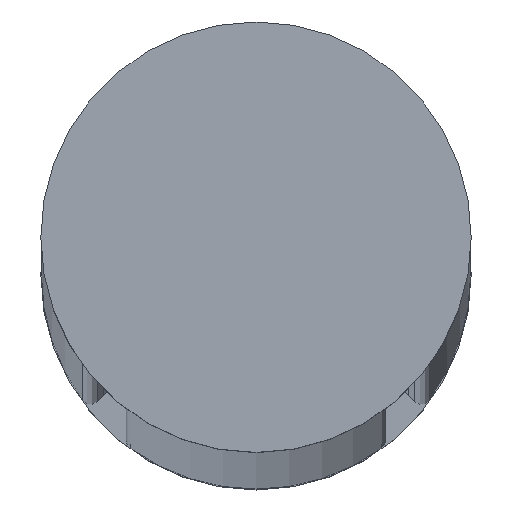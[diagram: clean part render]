
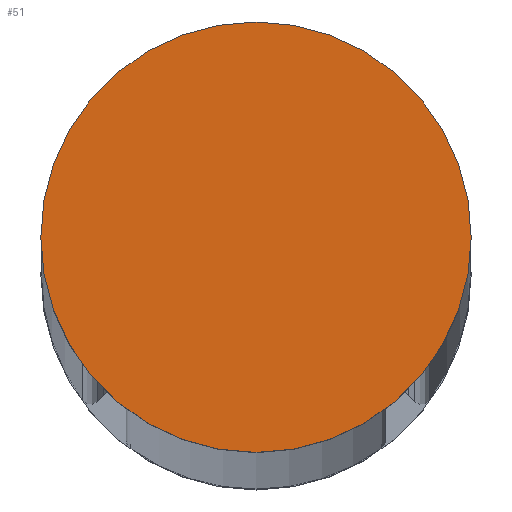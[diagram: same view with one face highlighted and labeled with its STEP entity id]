
A CAD part, top view. The second image highlights one B-rep face of the part: STEP entity #51.
In plain terms, the highlighted planar face has unit normal (0, 0, 1).
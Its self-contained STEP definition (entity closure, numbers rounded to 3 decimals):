
#51 = ADVANCED_FACE ( 'NONE', ( #3584 ), #1428, .T. ) ;
#523 = AXIS2_PLACEMENT_3D ( 'NONE', #3316, #2137, #2698 ) ;
#880 = DIRECTION ( 'NONE',  ( 1., 0., 0. ) ) ;
#887 = EDGE_CURVE ( 'NONE', #2764, #1528, #2384, .T. ) ;
#905 = EDGE_LOOP ( 'NONE', ( #2727, #3400 ) ) ;
#1393 = CARTESIAN_POINT ( 'NONE',  ( -10., 0., 995. ) ) ;
#1428 = PLANE ( 'NONE',  #2730 ) ;
#1528 = VERTEX_POINT ( 'NONE', #1393 ) ;
#1607 = DIRECTION ( 'NONE',  ( 0., 0., 1. ) ) ;
#1642 = CIRCLE ( 'NONE', #523, 10. ) ;
#1728 = EDGE_CURVE ( 'NONE', #1528, #2764, #1642, .T. ) ;
#1850 = AXIS2_PLACEMENT_3D ( 'NONE', #3403, #1607, #2490 ) ;
#2137 = DIRECTION ( 'NONE',  ( 0., 0., 1. ) ) ;
#2384 = CIRCLE ( 'NONE', #1850, 10. ) ;
#2490 = DIRECTION ( 'NONE',  ( 1., 0., 0. ) ) ;
#2612 = DIRECTION ( 'NONE',  ( 0., 0., 1. ) ) ;
#2698 = DIRECTION ( 'NONE',  ( 1., 0., 0. ) ) ;
#2727 = ORIENTED_EDGE ( 'NONE', *, *, #1728, .T. ) ;
#2730 = AXIS2_PLACEMENT_3D ( 'NONE', #3489, #2612, #880 ) ;
#2764 = VERTEX_POINT ( 'NONE', #3558 ) ;
#3316 = CARTESIAN_POINT ( 'NONE',  ( 0., 0., 995. ) ) ;
#3400 = ORIENTED_EDGE ( 'NONE', *, *, #887, .T. ) ;
#3403 = CARTESIAN_POINT ( 'NONE',  ( 0., 0., 995. ) ) ;
#3489 = CARTESIAN_POINT ( 'NONE',  ( 0., 0., 995. ) ) ;
#3558 = CARTESIAN_POINT ( 'NONE',  ( 10., 0., 995. ) ) ;
#3584 = FACE_OUTER_BOUND ( 'NONE', #905, .T. ) ;
